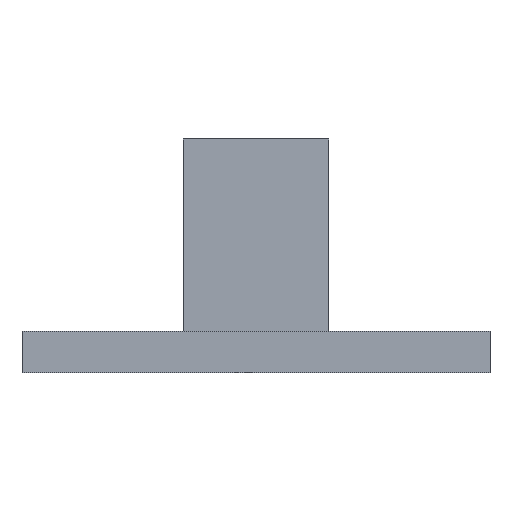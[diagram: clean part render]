
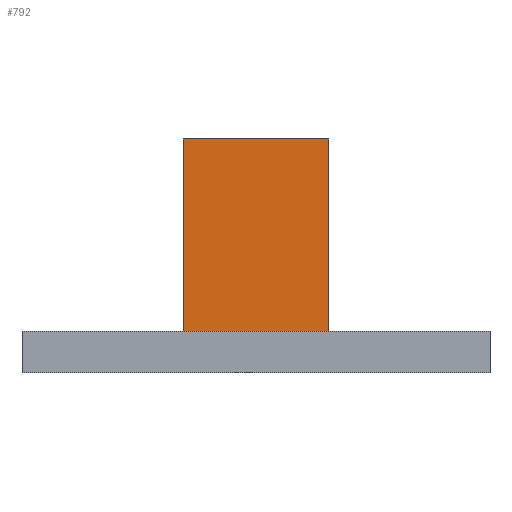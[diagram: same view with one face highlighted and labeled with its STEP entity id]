
A CAD part, front view. The second image highlights one B-rep face of the part: STEP entity #792.
In plain terms, the highlighted planar face has unit normal (0, -1, 0).
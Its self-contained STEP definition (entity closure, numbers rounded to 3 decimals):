
#126 = PLANE('',#127);
#127 = AXIS2_PLACEMENT_3D('',#128,#129,#130);
#128 = CARTESIAN_POINT('',(-45.,-45.,8.));
#129 = DIRECTION('',(0.,0.,1.));
#130 = DIRECTION('',(1.,0.,0.));
#370 = EDGE_CURVE('',#371,#373,#375,.T.);
#371 = VERTEX_POINT('',#372);
#372 = CARTESIAN_POINT('',(14.,-14.,8.));
#373 = VERTEX_POINT('',#374);
#374 = CARTESIAN_POINT('',(-14.,-14.,8.));
#375 = SURFACE_CURVE('',#376,(#380,#386),.PCURVE_S1.);
#376 = LINE('',#377,#378);
#377 = CARTESIAN_POINT('',(-29.5,-14.,8.));
#378 = VECTOR('',#379,1.);
#379 = DIRECTION('',(-1.,0.,0.));
#380 = PCURVE('',#126,#381);
#381 = DEFINITIONAL_REPRESENTATION('',(#382),#385);
#382 = B_SPLINE_CURVE_WITH_KNOTS('',1,(#383,#384),.UNSPECIFIED.,.F.,.F.,
  (2,2),(-43.5,-15.5),.PIECEWISE_BEZIER_KNOTS.);
#383 = CARTESIAN_POINT('',(59.,31.));
#384 = CARTESIAN_POINT('',(31.,31.));
#385 = ( GEOMETRIC_REPRESENTATION_CONTEXT(2) 
PARAMETRIC_REPRESENTATION_CONTEXT() REPRESENTATION_CONTEXT('2D SPACE',''
  ) );
#386 = PCURVE('',#387,#392);
#387 = PLANE('',#388);
#388 = AXIS2_PLACEMENT_3D('',#389,#390,#391);
#389 = CARTESIAN_POINT('',(-14.,-14.,0.));
#390 = DIRECTION('',(0.,1.,0.));
#391 = DIRECTION('',(0.,0.,1.));
#392 = DEFINITIONAL_REPRESENTATION('',(#393),#396);
#393 = B_SPLINE_CURVE_WITH_KNOTS('',1,(#394,#395),.UNSPECIFIED.,.F.,.F.,
  (2,2),(-43.5,-15.5),.PIECEWISE_BEZIER_KNOTS.);
#394 = CARTESIAN_POINT('',(8.,28.));
#395 = CARTESIAN_POINT('',(8.,0.));
#396 = ( GEOMETRIC_REPRESENTATION_CONTEXT(2) 
PARAMETRIC_REPRESENTATION_CONTEXT() REPRESENTATION_CONTEXT('2D SPACE',''
  ) );
#413 = PLANE('',#414);
#414 = AXIS2_PLACEMENT_3D('',#415,#416,#417);
#415 = CARTESIAN_POINT('',(-14.,-14.,0.));
#416 = DIRECTION('',(1.,0.,0.));
#417 = DIRECTION('',(0.,0.,1.));
#463 = PLANE('',#464);
#464 = AXIS2_PLACEMENT_3D('',#465,#466,#467);
#465 = CARTESIAN_POINT('',(14.,-14.,0.));
#466 = DIRECTION('',(1.,0.,0.));
#467 = DIRECTION('',(0.,0.,1.));
#792 = ADVANCED_FACE('',(#793),#387,.F.);
#793 = FACE_BOUND('',#794,.F.);
#794 = EDGE_LOOP('',(#795,#818,#819,#842));
#795 = ORIENTED_EDGE('',*,*,#796,.F.);
#796 = EDGE_CURVE('',#371,#797,#799,.T.);
#797 = VERTEX_POINT('',#798);
#798 = CARTESIAN_POINT('',(14.,-14.,45.));
#799 = SURFACE_CURVE('',#800,(#804,#811),.PCURVE_S1.);
#800 = LINE('',#801,#802);
#801 = CARTESIAN_POINT('',(14.,-14.,0.));
#802 = VECTOR('',#803,1.);
#803 = DIRECTION('',(0.,0.,1.));
#804 = PCURVE('',#387,#805);
#805 = DEFINITIONAL_REPRESENTATION('',(#806),#810);
#806 = LINE('',#807,#808);
#807 = CARTESIAN_POINT('',(0.,28.));
#808 = VECTOR('',#809,1.);
#809 = DIRECTION('',(1.,0.));
#810 = ( GEOMETRIC_REPRESENTATION_CONTEXT(2) 
PARAMETRIC_REPRESENTATION_CONTEXT() REPRESENTATION_CONTEXT('2D SPACE',''
  ) );
#811 = PCURVE('',#463,#812);
#812 = DEFINITIONAL_REPRESENTATION('',(#813),#817);
#813 = LINE('',#814,#815);
#814 = CARTESIAN_POINT('',(0.,0.));
#815 = VECTOR('',#816,1.);
#816 = DIRECTION('',(1.,0.));
#817 = ( GEOMETRIC_REPRESENTATION_CONTEXT(2) 
PARAMETRIC_REPRESENTATION_CONTEXT() REPRESENTATION_CONTEXT('2D SPACE',''
  ) );
#818 = ORIENTED_EDGE('',*,*,#370,.T.);
#819 = ORIENTED_EDGE('',*,*,#820,.T.);
#820 = EDGE_CURVE('',#373,#821,#823,.T.);
#821 = VERTEX_POINT('',#822);
#822 = CARTESIAN_POINT('',(-14.,-14.,45.));
#823 = SURFACE_CURVE('',#824,(#828,#835),.PCURVE_S1.);
#824 = LINE('',#825,#826);
#825 = CARTESIAN_POINT('',(-14.,-14.,0.));
#826 = VECTOR('',#827,1.);
#827 = DIRECTION('',(0.,0.,1.));
#828 = PCURVE('',#387,#829);
#829 = DEFINITIONAL_REPRESENTATION('',(#830),#834);
#830 = LINE('',#831,#832);
#831 = CARTESIAN_POINT('',(0.,0.));
#832 = VECTOR('',#833,1.);
#833 = DIRECTION('',(1.,0.));
#834 = ( GEOMETRIC_REPRESENTATION_CONTEXT(2) 
PARAMETRIC_REPRESENTATION_CONTEXT() REPRESENTATION_CONTEXT('2D SPACE',''
  ) );
#835 = PCURVE('',#413,#836);
#836 = DEFINITIONAL_REPRESENTATION('',(#837),#841);
#837 = LINE('',#838,#839);
#838 = CARTESIAN_POINT('',(0.,0.));
#839 = VECTOR('',#840,1.);
#840 = DIRECTION('',(1.,0.));
#841 = ( GEOMETRIC_REPRESENTATION_CONTEXT(2) 
PARAMETRIC_REPRESENTATION_CONTEXT() REPRESENTATION_CONTEXT('2D SPACE',''
  ) );
#842 = ORIENTED_EDGE('',*,*,#843,.T.);
#843 = EDGE_CURVE('',#821,#797,#844,.T.);
#844 = SURFACE_CURVE('',#845,(#849,#856),.PCURVE_S1.);
#845 = LINE('',#846,#847);
#846 = CARTESIAN_POINT('',(-14.,-14.,45.));
#847 = VECTOR('',#848,1.);
#848 = DIRECTION('',(1.,0.,0.));
#849 = PCURVE('',#387,#850);
#850 = DEFINITIONAL_REPRESENTATION('',(#851),#855);
#851 = LINE('',#852,#853);
#852 = CARTESIAN_POINT('',(45.,0.));
#853 = VECTOR('',#854,1.);
#854 = DIRECTION('',(0.,1.));
#855 = ( GEOMETRIC_REPRESENTATION_CONTEXT(2) 
PARAMETRIC_REPRESENTATION_CONTEXT() REPRESENTATION_CONTEXT('2D SPACE',''
  ) );
#856 = PCURVE('',#857,#862);
#857 = PLANE('',#858);
#858 = AXIS2_PLACEMENT_3D('',#859,#860,#861);
#859 = CARTESIAN_POINT('',(-14.,-14.,45.));
#860 = DIRECTION('',(0.,0.,1.));
#861 = DIRECTION('',(1.,0.,0.));
#862 = DEFINITIONAL_REPRESENTATION('',(#863),#867);
#863 = LINE('',#864,#865);
#864 = CARTESIAN_POINT('',(0.,0.));
#865 = VECTOR('',#866,1.);
#866 = DIRECTION('',(1.,0.));
#867 = ( GEOMETRIC_REPRESENTATION_CONTEXT(2) 
PARAMETRIC_REPRESENTATION_CONTEXT() REPRESENTATION_CONTEXT('2D SPACE',''
  ) );
